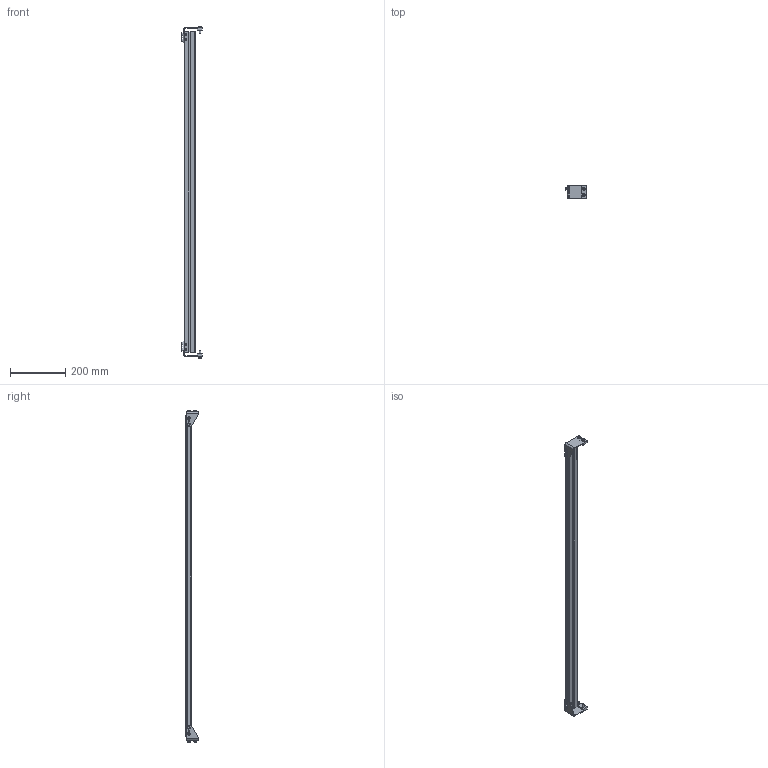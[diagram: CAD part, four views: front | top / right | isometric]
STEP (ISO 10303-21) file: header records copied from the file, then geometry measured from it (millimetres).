
FILE_DESCRIPTION((''),'2;1');
FILE_NAME('3076WWM_2_ASM','2023-03-15T',('jenni.wallner'),(''),'PRO/ENGINEER BY PARAMETRIC TECHNOLOGY CORPORATION, 2012420','PRO/ENGINEER BY PARAMETRIC TECHNOLOGY CORPORATION, 2012420','');
FILE_SCHEMA(('CONFIG_CONTROL_DESIGN'));
Length unit declared in the file: inch
Products named in the file (4): 677721_1; BRACKET_L; BRACKET_R; 3076WWM_2_ASM
Assembly tree (3 placements, depth 2):
  3076WWM_2_ASM
    677721_1
    BRACKET_L
    BRACKET_R
Bounding box: 76.2 x 46.13 x 1205.22 mm (x, y, z)
Volume: 518584.3 mm3; surface area: 311449.7 mm2
Topology: 3 solids, 3 shells, 296 faces, 730 edges, 476 vertices
Faces by surface type: plane 188, cylinder 76, cone 32
Entity records: 8834 total; most frequent: CARTESIAN_POINT 1525, DIRECTION 1512, ORIENTED_EDGE 1460, EDGE_CURVE 730, VECTOR 538, LINE 538, AXIS2_PLACEMENT_3D 487, VERTEX_POINT 476
